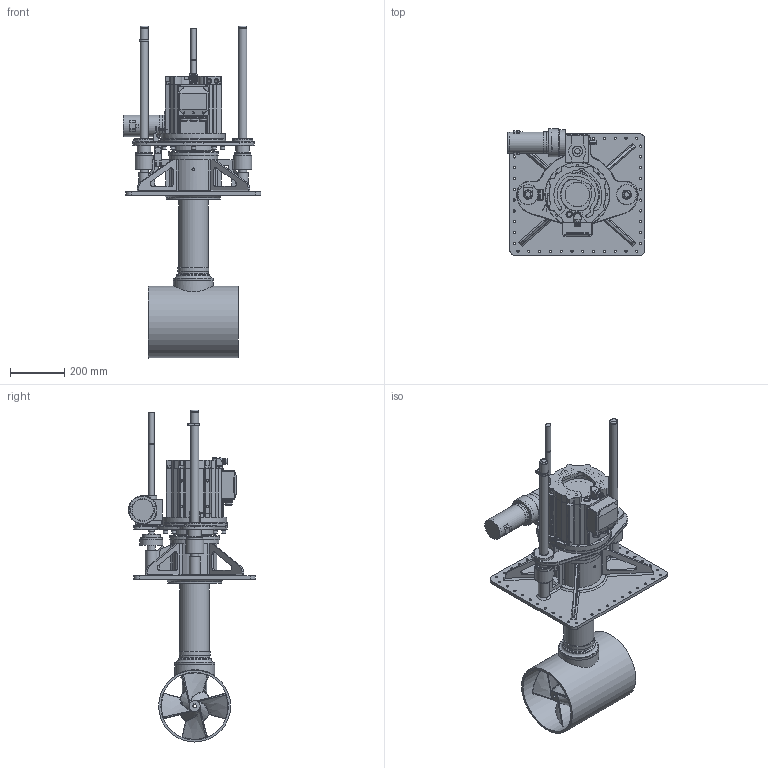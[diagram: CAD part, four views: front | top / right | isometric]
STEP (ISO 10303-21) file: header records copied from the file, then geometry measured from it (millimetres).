
FILE_DESCRIPTION(/* description */ (''),/* implementation_level */ '2;1');
FILE_NAME(/* name */ 'Q:\THRUSTERS\THRUSTER SALES & SUPPORT DOCS\THRUSTER Sales\E-V\E-0250-V\E-0250-V-DEPLOYED.stp',/* time_stamp */ '2021-03-03T14:44:46+00:00',/* author */ ('Barney.Webborn'),/* organization */ (''),/* preprocessor_version */ 'ST-DEVELOPER v17.2',/* originating_system */ 'Autodesk Inventor 2019',/* authorisation */ '');
FILE_SCHEMA (('AUTOMOTIVE_DESIGN { 1 0 10303 214 3 1 1 }'));
Length unit declared in the file: millimetre
Products named in the file (1): E-0250-V_Shrinkwrap_1
Bounding box: 510.2 x 469.5 x 1228.9 mm (x, y, z)
Volume: 18749734 mm3; surface area: 4230809.2 mm2
Topology: 82 solids, 82 shells, 3244 faces, 8374 edges, 5511 vertices
Faces by surface type: plane 1530, cylinder 1024, cone 270, bspline 241, torus 177, sphere 2
Full cylindrical faces by diameter (mm): 1.143 x17, 1.15 x3, 1.35 x3, 1.8 x3, 3.7 x1, 4 x2, 5.65 x1, 6 x1, 6.917 x1, 8.2 x2, 8.376 x20, 8.5 x58, 8.566 x2, 8.6 x6, 9 x1, 10 x9, 10.3 x6, 11 x24, 11.271 x1, 11.835 x1, 12 x1, 14 x3, 15 x11, 16 x9, 16.51 x3, 16.669 x2, 17.9 x1, 18.135 x8, 19 x1, 19.05 x1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
Entity records: 147728 total; most frequent: CARTESIAN_POINT 63968, ORIENTED_EDGE 16716, DIRECTION 16694, EDGE_CURVE 8358, AXIS2_PLACEMENT_3D 6279, VERTEX_POINT 5511, LINE 4136, VECTOR 4136
